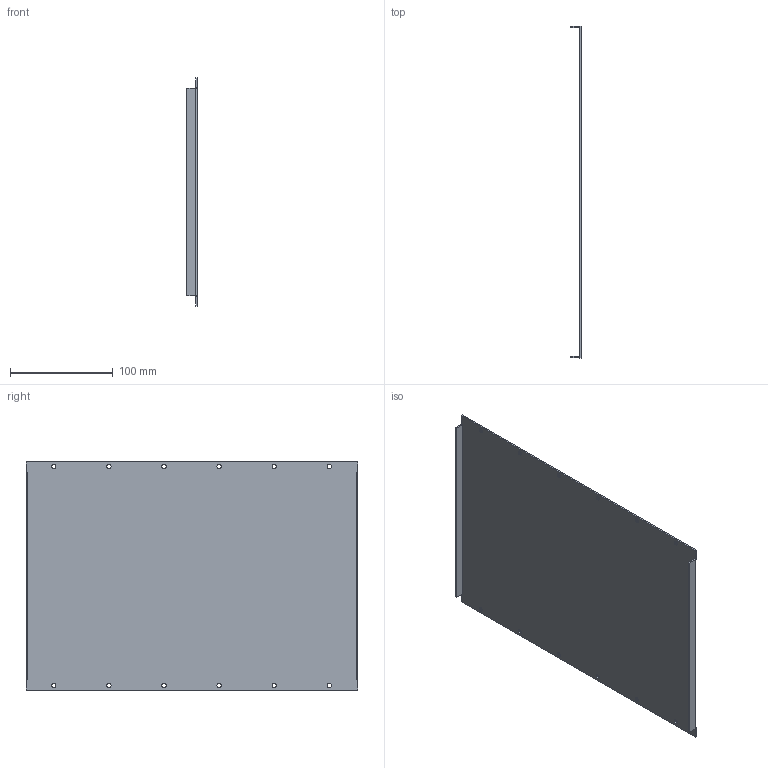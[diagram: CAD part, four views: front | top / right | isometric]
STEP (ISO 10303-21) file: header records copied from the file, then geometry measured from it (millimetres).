
FILE_DESCRIPTION(('CATIA V5 STEP Exchange'),'2;1');
FILE_NAME('C:\Users\Mike\Desktop\blank panels\6MU BLANK PANEL.stp','2018-03-03T21:32:52+00:00',('none'),('none'),'CATIA Version 5 Release 20 GA (IN-10)','CATIA V5 STEP AP214','none');
FILE_SCHEMA(('AUTOMOTIVE_DESIGN { 1 0 10303 214 1 1 1 1 }'));
Length unit declared in the file: millimetre
Products named in the file (1): 6MU BLANK PANEL
Bounding box: 10.16 x 323.09 x 222.25 mm (x, y, z)
Volume: 118068.2 mm3; surface area: 151963.3 mm2
Topology: 1 solids, 1 shells, 50 faces, 144 edges, 96 vertices
Faces by surface type: cylinder 26, plane 20, torus 4
Entity records: 1742 total; most frequent: CARTESIAN_POINT 459, ORIENTED_EDGE 288, DIRECTION 188, EDGE_CURVE 144, VERTEX_POINT 96, VECTOR 80, LINE 80, AXIS2_PLACEMENT_3D 74
